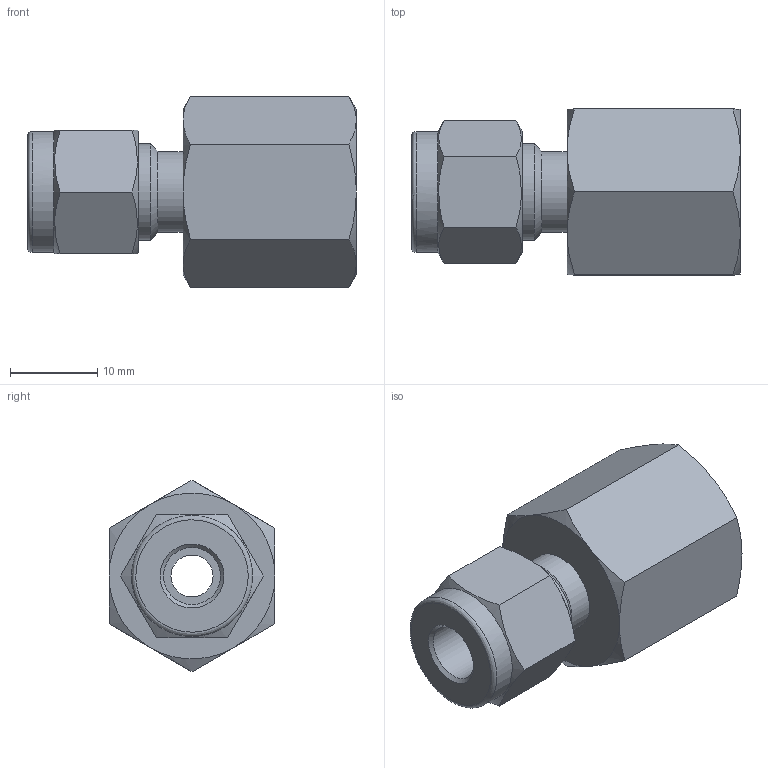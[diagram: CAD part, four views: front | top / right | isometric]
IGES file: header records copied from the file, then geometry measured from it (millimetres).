
Global section: file name: SGC-4-4G; native system: Autodesk Inventor 2016; preprocessor: unknown; author: DESIGNPC2; date: 20151219.164330; units: millimetre
Bounding box: 37.74 x 19.05 x 22 mm (x, y, z)
Volume: 6712.5 mm3; surface area: 3715 mm2
Topology: 1 solids, 1 shells, 45 faces, 113 edges, 75 vertices
Faces by surface type: bspline 45
